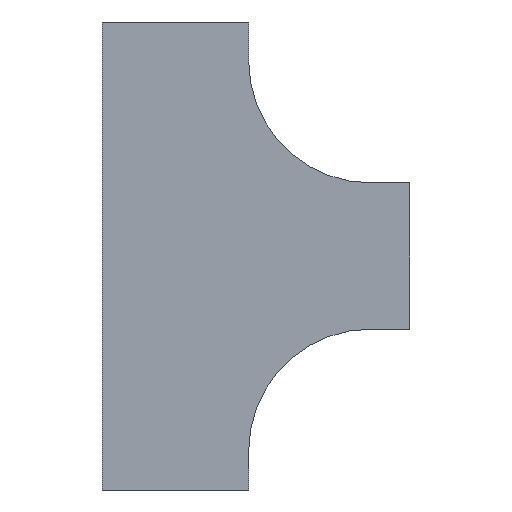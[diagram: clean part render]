
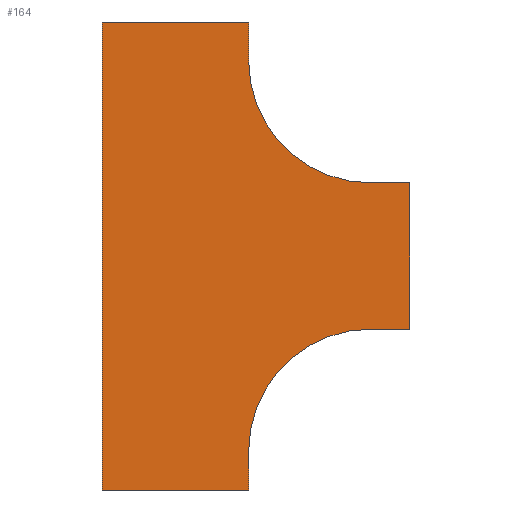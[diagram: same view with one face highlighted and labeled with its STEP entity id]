
A CAD part, front view. The second image highlights one B-rep face of the part: STEP entity #164.
In plain terms, the highlighted planar face has unit normal (0, -1, 0).
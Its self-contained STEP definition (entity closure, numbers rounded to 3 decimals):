
#14 = FACE_OUTER_BOUND ( 'NONE', #1891, .T. ) ;
#48 = CARTESIAN_POINT ( 'NONE',  ( -125., 0., -440. ) ) ;
#162 = DIRECTION ( 'NONE',  ( 0., 0., 1. ) ) ;
#164 = ADVANCED_FACE ( 'NONE', ( #14 ), #2345, .T. ) ;
#167 = DIRECTION ( 'NONE',  ( 1., 0., 0. ) ) ;
#174 = DIRECTION ( 'NONE',  ( 0., 0., -1. ) ) ;
#254 = CARTESIAN_POINT ( 'NONE',  ( -125., 0., -400. ) ) ;
#271 = DIRECTION ( 'NONE',  ( 0., 0., -1. ) ) ;
#275 = CIRCLE ( 'NONE', #384, 125. ) ;
#286 = CARTESIAN_POINT ( 'NONE',  ( -275., 0., -440. ) ) ;
#351 = DIRECTION ( 'NONE',  ( 0., -1., 0. ) ) ;
#366 = VERTEX_POINT ( 'NONE', #797 ) ;
#374 = ORIENTED_EDGE ( 'NONE', *, *, #1504, .F. ) ;
#384 = AXIS2_PLACEMENT_3D ( 'NONE', #1202, #2107, #866 ) ;
#394 = CARTESIAN_POINT ( 'NONE',  ( 0., 0., 0. ) ) ;
#400 = VERTEX_POINT ( 'NONE', #286 ) ;
#423 = VECTOR ( 'NONE', #2294, 1000. ) ;
#548 = CARTESIAN_POINT ( 'NONE',  ( -125., 0., 0. ) ) ;
#653 = VECTOR ( 'NONE', #174, 1000. ) ;
#690 = VECTOR ( 'NONE', #1998, 1000. ) ;
#725 = DIRECTION ( 'NONE',  ( -1., 0., 0. ) ) ;
#764 = LINE ( 'NONE', #1631, #653 ) ;
#797 = CARTESIAN_POINT ( 'NONE',  ( -275., 0., 40. ) ) ;
#821 = VECTOR ( 'NONE', #725, 1000. ) ;
#842 = AXIS2_PLACEMENT_3D ( 'NONE', #2336, #351, #2185 ) ;
#844 = DIRECTION ( 'NONE',  ( -1., 0., 0. ) ) ;
#866 = DIRECTION ( 'NONE',  ( 0., 0., 1. ) ) ;
#879 = CARTESIAN_POINT ( 'NONE',  ( 40., 0., -125. ) ) ;
#945 = ORIENTED_EDGE ( 'NONE', *, *, #2140, .F. ) ;
#962 = VERTEX_POINT ( 'NONE', #1129 ) ;
#967 = ORIENTED_EDGE ( 'NONE', *, *, #1816, .F. ) ;
#1021 = EDGE_CURVE ( 'NONE', #2189, #1931, #1910, .T. ) ;
#1035 = ORIENTED_EDGE ( 'NONE', *, *, #2335, .F. ) ;
#1048 = LINE ( 'NONE', #1826, #2331 ) ;
#1129 = CARTESIAN_POINT ( 'NONE',  ( 40., 0., -275. ) ) ;
#1130 = EDGE_CURVE ( 'NONE', #366, #1286, #2332, .T. ) ;
#1134 = ORIENTED_EDGE ( 'NONE', *, *, #1130, .F. ) ;
#1143 = CARTESIAN_POINT ( 'NONE',  ( 0., 0., -125. ) ) ;
#1163 = LINE ( 'NONE', #1880, #1533 ) ;
#1202 = CARTESIAN_POINT ( 'NONE',  ( 0., 0., -400. ) ) ;
#1232 = VECTOR ( 'NONE', #167, 1000. ) ;
#1259 = ORIENTED_EDGE ( 'NONE', *, *, #2039, .F. ) ;
#1286 = VERTEX_POINT ( 'NONE', #2172 ) ;
#1344 = VERTEX_POINT ( 'NONE', #254 ) ;
#1378 = CARTESIAN_POINT ( 'NONE',  ( 0., 0., -275. ) ) ;
#1395 = CARTESIAN_POINT ( 'NONE',  ( -275., 0., -440. ) ) ;
#1420 = ORIENTED_EDGE ( 'NONE', *, *, #1021, .F. ) ;
#1481 = LINE ( 'NONE', #2203, #690 ) ;
#1504 = EDGE_CURVE ( 'NONE', #1857, #400, #2348, .T. ) ;
#1533 = VECTOR ( 'NONE', #271, 1000. ) ;
#1589 = LINE ( 'NONE', #1395, #2278 ) ;
#1593 = LINE ( 'NONE', #1947, #423 ) ;
#1631 = CARTESIAN_POINT ( 'NONE',  ( -125., 0., 40. ) ) ;
#1680 = AXIS2_PLACEMENT_3D ( 'NONE', #394, #2204, #1988 ) ;
#1716 = EDGE_CURVE ( 'NONE', #1829, #962, #1163, .T. ) ;
#1781 = CARTESIAN_POINT ( 'NONE',  ( -275., 0., 40. ) ) ;
#1816 = EDGE_CURVE ( 'NONE', #962, #2216, #1048, .T. ) ;
#1826 = CARTESIAN_POINT ( 'NONE',  ( 0., 0., -275. ) ) ;
#1829 = VERTEX_POINT ( 'NONE', #879 ) ;
#1830 = ORIENTED_EDGE ( 'NONE', *, *, #1716, .F. ) ;
#1848 = ORIENTED_EDGE ( 'NONE', *, *, #2078, .F. ) ;
#1857 = VERTEX_POINT ( 'NONE', #48 ) ;
#1880 = CARTESIAN_POINT ( 'NONE',  ( 40., 0., -125. ) ) ;
#1891 = EDGE_LOOP ( 'NONE', ( #1134, #1259, #374, #2347, #1848, #967, #1830, #1035, #1420, #945 ) ) ;
#1910 = CIRCLE ( 'NONE', #1680, 125. ) ;
#1931 = VERTEX_POINT ( 'NONE', #1143 ) ;
#1947 = CARTESIAN_POINT ( 'NONE',  ( 0., 0., -125. ) ) ;
#1988 = DIRECTION ( 'NONE',  ( 0., 0., -1. ) ) ;
#1998 = DIRECTION ( 'NONE',  ( 0., 0., -1. ) ) ;
#2039 = EDGE_CURVE ( 'NONE', #400, #366, #1589, .T. ) ;
#2078 = EDGE_CURVE ( 'NONE', #2216, #1344, #275, .T. ) ;
#2107 = DIRECTION ( 'NONE',  ( 0., -1., 0. ) ) ;
#2140 = EDGE_CURVE ( 'NONE', #1286, #2189, #764, .T. ) ;
#2149 = EDGE_CURVE ( 'NONE', #1344, #1857, #1481, .T. ) ;
#2154 = CARTESIAN_POINT ( 'NONE',  ( -275., 0., -440. ) ) ;
#2172 = CARTESIAN_POINT ( 'NONE',  ( -125., 0., 40. ) ) ;
#2185 = DIRECTION ( 'NONE',  ( 0., 0., -1. ) ) ;
#2189 = VERTEX_POINT ( 'NONE', #548 ) ;
#2203 = CARTESIAN_POINT ( 'NONE',  ( -125., 0., -440. ) ) ;
#2204 = DIRECTION ( 'NONE',  ( 0., -1., 0. ) ) ;
#2216 = VERTEX_POINT ( 'NONE', #1378 ) ;
#2278 = VECTOR ( 'NONE', #162, 1000. ) ;
#2294 = DIRECTION ( 'NONE',  ( 1., 0., 0. ) ) ;
#2331 = VECTOR ( 'NONE', #844, 1000. ) ;
#2332 = LINE ( 'NONE', #1781, #1232 ) ;
#2335 = EDGE_CURVE ( 'NONE', #1931, #1829, #1593, .T. ) ;
#2336 = CARTESIAN_POINT ( 'NONE',  ( 0., 0., 0. ) ) ;
#2345 = PLANE ( 'NONE',  #842 ) ;
#2347 = ORIENTED_EDGE ( 'NONE', *, *, #2149, .F. ) ;
#2348 = LINE ( 'NONE', #2154, #821 ) ;
